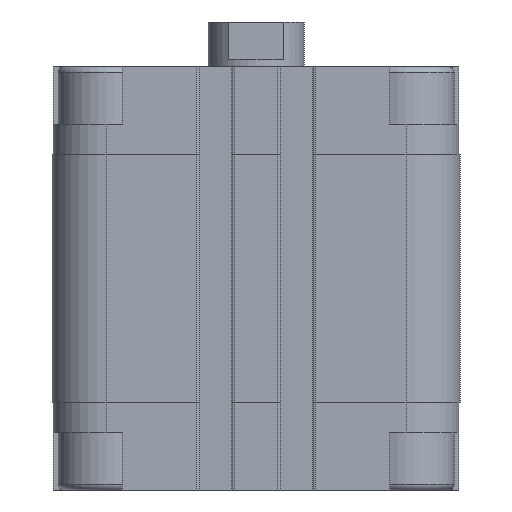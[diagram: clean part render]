
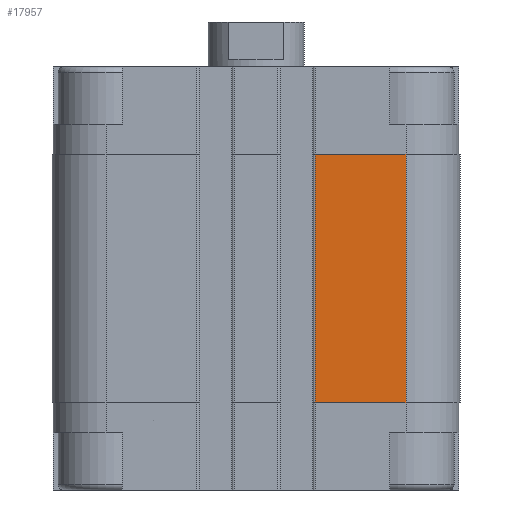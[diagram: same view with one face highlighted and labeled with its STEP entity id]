
A CAD part, front view. The second image highlights one B-rep face of the part: STEP entity #17957.
In plain terms, the highlighted planar face has unit normal (0, -1, 0).
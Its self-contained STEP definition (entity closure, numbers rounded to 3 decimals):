
#605 = DIRECTION ( 'NONE',  ( 1., 0., 0. ) ) ;
#1320 = CARTESIAN_POINT ( 'NONE',  ( 9.85, -34., -56. ) ) ;
#1961 = CARTESIAN_POINT ( 'NONE',  ( 25., -34., -14.5 ) ) ;
#2361 = DIRECTION ( 'NONE',  ( 0., 0., 1. ) ) ;
#3045 = EDGE_CURVE ( 'NONE', #21796, #4463, #12790, .T. ) ;
#3820 = FACE_OUTER_BOUND ( 'NONE', #10931, .T. ) ;
#4463 = VERTEX_POINT ( 'NONE', #8409 ) ;
#5621 = PLANE ( 'NONE',  #7640 ) ;
#5672 = LINE ( 'NONE', #6007, #18015 ) ;
#6007 = CARTESIAN_POINT ( 'NONE',  ( 9.85, -34., -14.5 ) ) ;
#6970 = EDGE_CURVE ( 'NONE', #4463, #17512, #5672, .T. ) ;
#7079 = DIRECTION ( 'NONE',  ( -1., 0., 0. ) ) ;
#7185 = CARTESIAN_POINT ( 'NONE',  ( 25., -34., -56. ) ) ;
#7191 = DIRECTION ( 'NONE',  ( 0., -1., 0. ) ) ;
#7640 = AXIS2_PLACEMENT_3D ( 'NONE', #15964, #7191, #7079 ) ;
#8409 = CARTESIAN_POINT ( 'NONE',  ( 9.85, -34., -14.5 ) ) ;
#8541 = VERTEX_POINT ( 'NONE', #8910 ) ;
#8910 = CARTESIAN_POINT ( 'NONE',  ( 25., -34., -56. ) ) ;
#9605 = EDGE_CURVE ( 'NONE', #21796, #8541, #21774, .T. ) ;
#10494 = ORIENTED_EDGE ( 'NONE', *, *, #9605, .T. ) ;
#10821 = VECTOR ( 'NONE', #16372, 1000. ) ;
#10931 = EDGE_LOOP ( 'NONE', ( #17004, #18833, #10494, #13359 ) ) ;
#12790 = LINE ( 'NONE', #13122, #20131 ) ;
#13017 = DIRECTION ( 'NONE',  ( 0., 0., 1. ) ) ;
#13122 = CARTESIAN_POINT ( 'NONE',  ( 9.85, -34., -56. ) ) ;
#13359 = ORIENTED_EDGE ( 'NONE', *, *, #19265, .T. ) ;
#13604 = VECTOR ( 'NONE', #2361, 1000. ) ;
#15964 = CARTESIAN_POINT ( 'NONE',  ( 9.85, -34., -56. ) ) ;
#16372 = DIRECTION ( 'NONE',  ( 1., 0., 0. ) ) ;
#17004 = ORIENTED_EDGE ( 'NONE', *, *, #6970, .F. ) ;
#17512 = VERTEX_POINT ( 'NONE', #1961 ) ;
#17957 = ADVANCED_FACE ( 'NONE', ( #3820 ), #5621, .T. ) ;
#18015 = VECTOR ( 'NONE', #605, 1000. ) ;
#18442 = CARTESIAN_POINT ( 'NONE',  ( 9.85, -34., -56. ) ) ;
#18833 = ORIENTED_EDGE ( 'NONE', *, *, #3045, .F. ) ;
#19265 = EDGE_CURVE ( 'NONE', #8541, #17512, #21012, .T. ) ;
#20131 = VECTOR ( 'NONE', #13017, 1000. ) ;
#21012 = LINE ( 'NONE', #7185, #13604 ) ;
#21774 = LINE ( 'NONE', #1320, #10821 ) ;
#21796 = VERTEX_POINT ( 'NONE', #18442 ) ;
